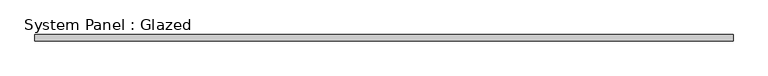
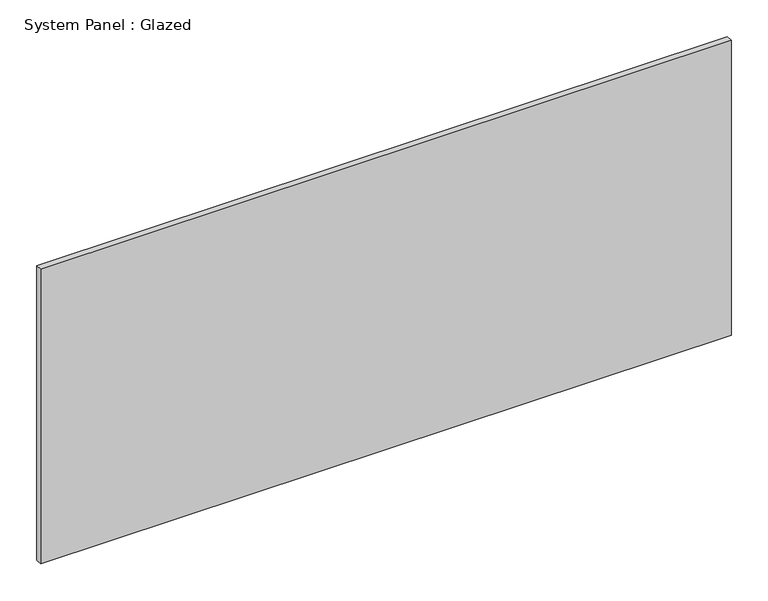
"""IFC4 building model written with IfcOpenShell, lengths in millimetres: plate geometry, System Panel : Glazed."""

from ifc_helpers import new_model, si_unit, origin, origin_with_axes, place, context, project, spatial, polyline, outline, extrude, source, transform, mapped, element, save


def system_panel_glazed_7bfd0c8b(model_context):
    return source(origin(), model_context, "Body", "SweptSolid", [
        extrude(outline(polyline([(541.2142184, -5.0), (-541.2142184, -5.0), (-541.2142184, 5.0), (541.2142184, 5.0), (541.2142184, -5.0)])), origin_with_axes(), (0.0, 0.0, 1.0), 488.3333333),
    ])


if __name__ == "__main__":
    model = new_model("IFC4")
    model_context = context("Model", 3, world=origin())
    ifc_project = project(units=[si_unit("LENGTHUNIT", "METRE", prefix="MILLI")], contexts=[model_context])
    site = spatial("IfcSite", under=ifc_project)
    building = spatial("IfcBuilding", under=site)
    placement = place(None, origin())
    system_panel_glazed_shape = system_panel_glazed_7bfd0c8b(model_context)
    element("IfcPlate", 1, ObjectType="System Panel : Glazed", at=placement, inside=building, context=model_context, shape_type="MappedRepresentation", body=[
        mapped(system_panel_glazed_shape, transform((0.0, 0.0, 0.0), x_axis=(1.0, 0.0, 0.0), y_axis=(0.0, 1.0, 0.0), z_axis=(0.0, 0.0, 1.0))),
    ])
    save(model, "model.ifc")
